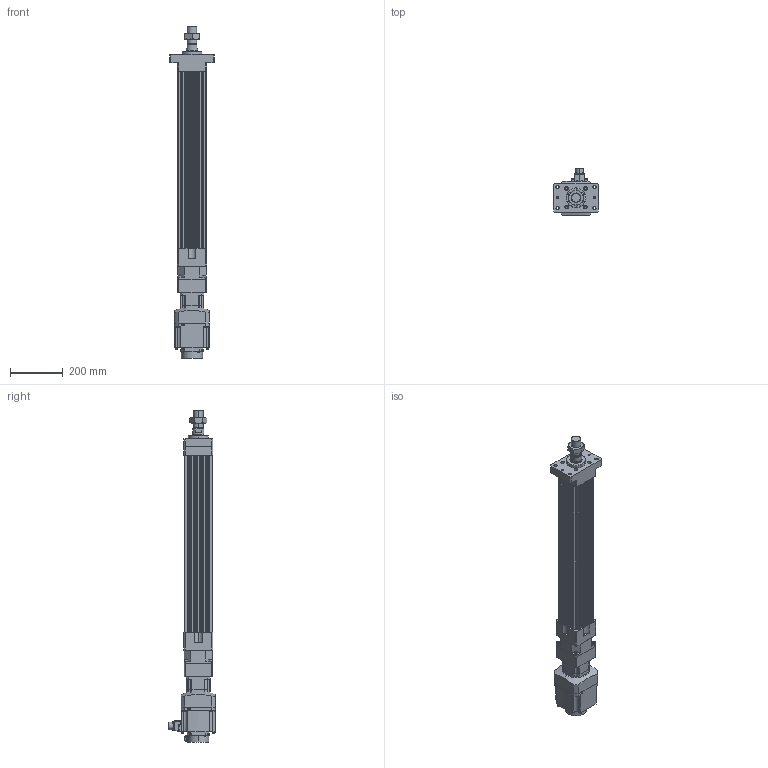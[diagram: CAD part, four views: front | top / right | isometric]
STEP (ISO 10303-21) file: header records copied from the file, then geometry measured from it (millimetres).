
FILE_DESCRIPTION (( 'STEP AP203' ), '1' );
FILE_NAME ('HES110NS(HS)-S500-W010G00-M-FM.STEP', '2023-01-27T07:26:38', ( 'tms' ), ( '' ), 'SwSTEP 2.0', 'SolidWorks 2013', '' );
FILE_SCHEMA (( 'CONFIG_CONTROL_DESIGN' ));
Length unit declared in the file: millimetre
Products named in the file (8): HES110 ROD M ST500; HES110-S500-G090-FM; M36X1.5P; AB090-003[HG-SR102B]; P0401301004; AB0901; HG-SR102; HES110NS(HS)-S500-W010G00-M-FM
Assembly tree (7 placements, depth 3):
  HES110NS(HS)-S500-W010G00-M-FM
    HES110-S500-G090-FM
    HES110 ROD M ST500
    M36X1.5P
    AB090-003[HG-SR102B]
      AB0901
      P0401301004
    HG-SR102
Bounding box: 170 x 177.49 x 1258.5 mm (x, y, z)
Volume: 8224622.9 mm3; surface area: 1122099.1 mm2
Topology: 4 solids, 15 shells, 1165 faces, 2950 edges, 1921 vertices
Faces by surface type: plane 558, cylinder 523, cone 72, bspline 8, torus 4
Entity records: 37081 total; most frequent: CARTESIAN_POINT 7224, DIRECTION 6367, ORIENTED_EDGE 5848, EDGE_CURVE 2934, AXIS2_PLACEMENT_3D 2335, VERTEX_POINT 1921, LINE 1697, VECTOR 1697
